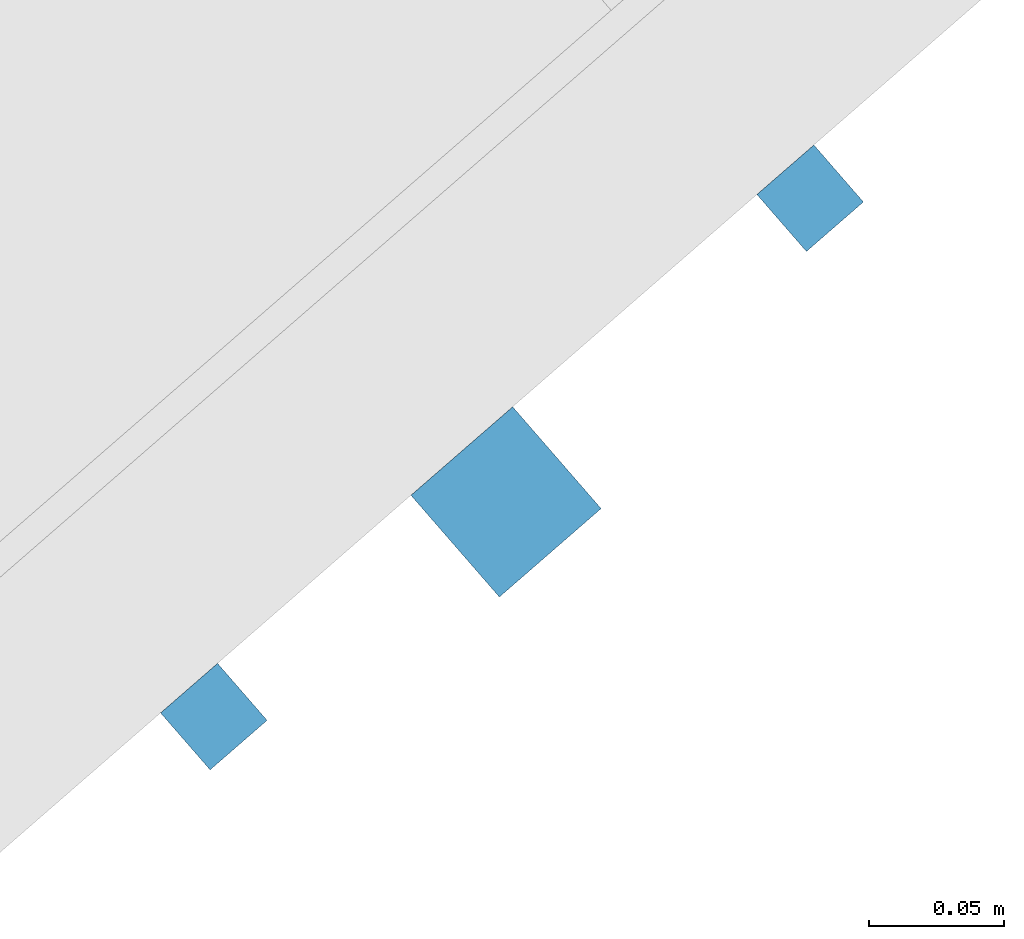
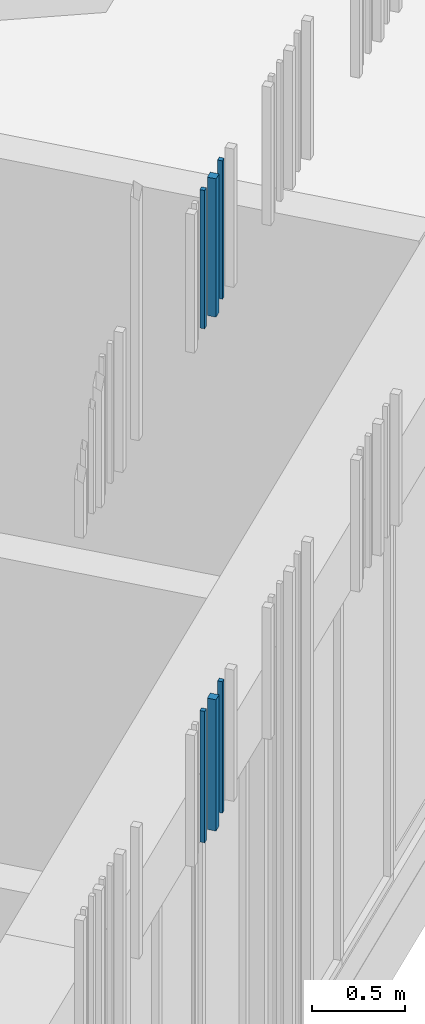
# One storey, part 93 of 124: 6 walls.
"""IFC2X3 building model written with IfcOpenShell, lengths in millimetres."""

from ifc_helpers import new_model, entity, si_unit, converted_unit, derived_unit, money_unit, direction, frame, origin_with_axes, place, context, subcontext, project, spatial, faceted_brep, material, type_object, element, save


model = new_model("IFC2X3")

# Units and contexts
model_context = context("Model", 3, precision=1e-05, world=origin_with_axes(), true_north=direction((0.0, 1.0)))
body_context = subcontext(model_context, "Body", "Model", "MODEL_VIEW")
ifc_project = project(units=[si_unit("LENGTHUNIT", "METRE", prefix="MILLI"), si_unit("AREAUNIT", "SQUARE_METRE"), si_unit("VOLUMEUNIT", "CUBIC_METRE"), converted_unit("PLANEANGLEUNIT", "DEGREE", entity("IfcPlaneAngleMeasure", 0.0174532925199), si_unit("PLANEANGLEUNIT", "RADIAN"), dimensions=[0, 0, 0, 0, 0, 0, 0]), si_unit("SOLIDANGLEUNIT", "STERADIAN"), money_unit("EUR"), converted_unit("TIMEUNIT", "Year", entity("IfcTimeMeasure", 31556926.0), si_unit("TIMEUNIT", "SECOND"), dimensions=[0, 0, 1, 0, 0, 0, 0]), si_unit("MASSUNIT", "GRAM", prefix="KILO"), si_unit("THERMODYNAMICTEMPERATUREUNIT", "DEGREE_CELSIUS"), si_unit("LUMINOUSINTENSITYUNIT", "LUMEN"), si_unit("ENERGYUNIT", "JOULE", prefix="MEGA"), derived_unit("THERMALCONDUCTANCEUNIT", [(si_unit("POWERUNIT", "WATT"), 1), (si_unit("LENGTHUNIT", "METRE"), -1), (si_unit("THERMODYNAMICTEMPERATUREUNIT", "KELVIN"), -1)]), derived_unit("SPECIFICHEATCAPACITYUNIT", [(si_unit("ENERGYUNIT", "JOULE"), 1), (si_unit("MASSUNIT", "GRAM", prefix="KILO"), -1), (si_unit("THERMODYNAMICTEMPERATUREUNIT", "KELVIN"), -1)]), derived_unit("MASSDENSITYUNIT", [(si_unit("MASSUNIT", "GRAM", prefix="KILO"), 1), (si_unit("VOLUMEUNIT", "CUBIC_METRE"), -1)])], contexts=[model_context])

# Site, building, storey
site_placement = place(None, origin_with_axes())
site = spatial("IfcSite", under=ifc_project, at=site_placement, Name="Site", CompositionType="ELEMENT")
building_placement = place(site_placement, origin_with_axes())
building = spatial("IfcBuilding", under=site, at=building_placement, Name="Building", CompositionType="ELEMENT")
storey_placement = place(building_placement, frame((0.0, 0.0, -1615.0), z_axis=(0.0, 0.0, 1.0), x_axis=(1.0, 0.0, 0.0)))
storey = spatial("IfcBuildingStorey", under=building, at=storey_placement, Name="0  korrus", CompositionType="ELEMENT", Elevation=-1615.0)

# Walls
ifc_material = material(Name="Site specified")
wall_type = type_object("IfcWallType", Name="Puitfassaadi ribistik", PredefinedType="NOTDEFINED")
for number, where, z_axis, x_axis, name in (
    (1, (154381.308578, 78846.8159101, 2550.00001878), (0.0, 0.0, 1.0), (-0.754709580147, -0.656059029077, 0.0), "Site specified"),
    (2, (154160.178692, 78654.5906335, 2550.00001878), (0.0, 0.0, 1.0), (-0.754709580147, -0.656059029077, 0.0), "Site specified"),
):
    element("IfcWall", number, at=place(storey_placement, frame(where, z_axis=z_axis, x_axis=x_axis)), inside=storey, type_object=wall_type, material=ifc_material, Name=name, context=body_context, shape_type="Brep", body=[
        faceted_brep([(14.0, 14.0, 860.0), (14.0, 14.0, 0.0), (-14.0, 14.0, 0.0), (-14.0, 14.0, 860.0), (14.0, -14.0, 860.0), (14.0, -14.0, 0.0), (-14.0, -14.0, 0.0), (-14.0, -14.0, 860.0)], [[[0, 1, 2, 3]], [[4, 5, 1, 0]], [[2, 1, 5, 6]], [[3, 2, 6, 7]], [[4, 0, 3, 7]], [[7, 6, 5, 4]]]),
    ])
wall_1_placement = place(storey_placement, frame((154268.528285, 78734.2023544, 2550.00001878), z_axis=(0.0, 0.0, 1.0), x_axis=(-0.754709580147, -0.656059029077, 0.0)))
element("IfcWall", 3, at=wall_1_placement, inside=storey, type_object=wall_type, material=ifc_material, Name="Site specified", context=body_context, shape_type="Brep", body=[
    faceted_brep([(25.0, 25.0, 860.0), (25.0, 25.0, 0.0), (-25.0, 25.0, 0.0), (-25.0, 25.0, 860.0), (25.0, -25.0, 860.0), (25.0, -25.0, 0.0), (-25.0, -25.0, 0.0), (-25.0, -25.0, 860.0)], [[[0, 1, 2, 3]], [[4, 5, 1, 0]], [[2, 1, 5, 6]], [[3, 2, 6, 7]], [[4, 0, 3, 7]], [[7, 6, 5, 4]]]),
])
for number, where, z_axis, x_axis, name in (
    (4, (154381.308578, 78846.8159101, 5915.0), (0.0, 0.0, 1.0), (-0.754709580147, -0.656059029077, 0.0), "Site specified"),
    (5, (154160.178692, 78654.5906335, 5915.0), (0.0, 0.0, 1.0), (-0.754709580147, -0.656059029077, 0.0), "Site specified"),
):
    element("IfcWall", number, at=place(storey_placement, frame(where, z_axis=z_axis, x_axis=x_axis)), inside=storey, type_object=wall_type, material=ifc_material, Name=name, context=body_context, shape_type="Brep", body=[
        faceted_brep([(14.0, 14.0, 906.0), (14.0, 14.0, 0.0), (-14.0, 14.0, 0.0), (-14.0, 14.0, 906.0), (14.0, -14.0, 906.0), (14.0, -14.0, 0.0), (-14.0, -14.0, 0.0), (-14.0, -14.0, 906.0)], [[[0, 1, 2, 3]], [[4, 5, 1, 0]], [[2, 1, 5, 6]], [[3, 2, 6, 7]], [[4, 0, 3, 7]], [[7, 6, 5, 4]]]),
    ])
wall_2_placement = place(storey_placement, frame((154268.528285, 78734.2023544, 5915.0), z_axis=(0.0, 0.0, 1.0), x_axis=(-0.754709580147, -0.656059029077, 0.0)))
element("IfcWall", 6, at=wall_2_placement, inside=storey, type_object=wall_type, material=ifc_material, Name="Site specified", context=body_context, shape_type="Brep", body=[
    faceted_brep([(25.0, 25.0, 906.0), (25.0, 25.0, 0.0), (-25.0, 25.0, 0.0), (-25.0, 25.0, 906.0), (25.0, -25.0, 906.0), (25.0, -25.0, 0.0), (-25.0, -25.0, 0.0), (-25.0, -25.0, 906.0)], [[[0, 1, 2, 3]], [[4, 5, 1, 0]], [[2, 1, 5, 6]], [[3, 2, 6, 7]], [[4, 0, 3, 7]], [[7, 6, 5, 4]]]),
])

save(model, "model.ifc")
